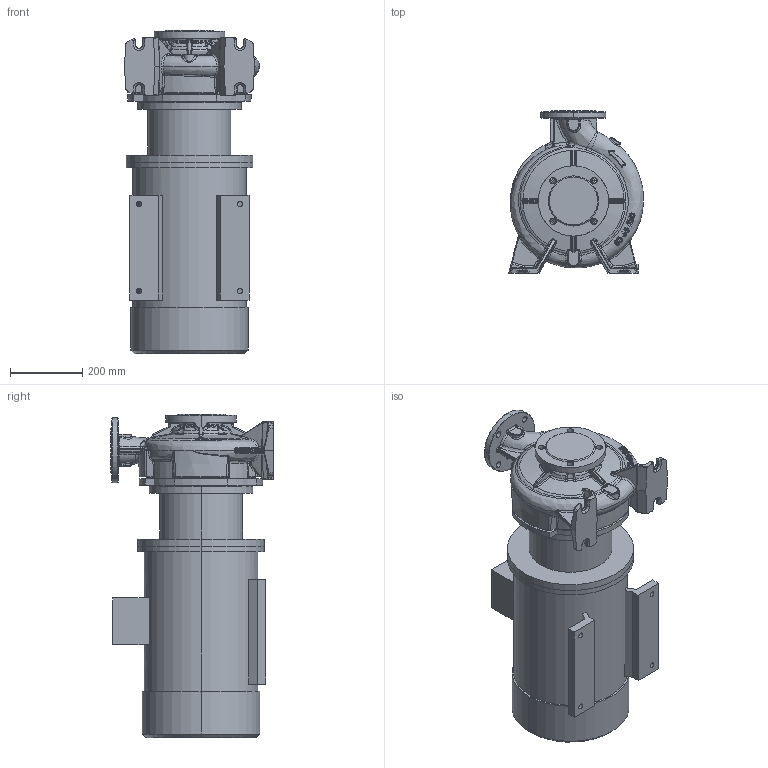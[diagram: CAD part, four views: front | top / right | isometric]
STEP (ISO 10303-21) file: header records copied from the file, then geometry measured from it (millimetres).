
FILE_DESCRIPTION (( 'STEP AP203' ), '1' );
FILE_NAME ('KRM80-65-250-2-22.STEP', '2026-08-11T12:18:28', ( '' ), ( '' ), 'SwSTEP 2.0', 'SolidWorks 2016', '' );
FILE_SCHEMA (( 'CONFIG_CONTROL_DESIGN' ));
Length unit declared in the file: millimetre
Products named in the file (1): KRM80-65-250-2-22
Bounding box: 374.04 x 450 x 895.8 mm (x, y, z)
Volume: 69645606.6 mm3; surface area: 2129372 mm2
Topology: 8 solids, 8 shells, 1125 faces, 2712 edges, 1615 vertices
Faces by surface type: bspline 507, cylinder 225, plane 214, torus 75, cone 67, sphere 37
Entity records: 93735 total; most frequent: CARTESIAN_POINT 71441, ORIENTED_EDGE 5374, DIRECTION 3647, EDGE_CURVE 2687, VERTEX_POINT 1615, AXIS2_PLACEMENT_3D 1512, EDGE_LOOP 1186, FACE_OUTER_BOUND 1125
